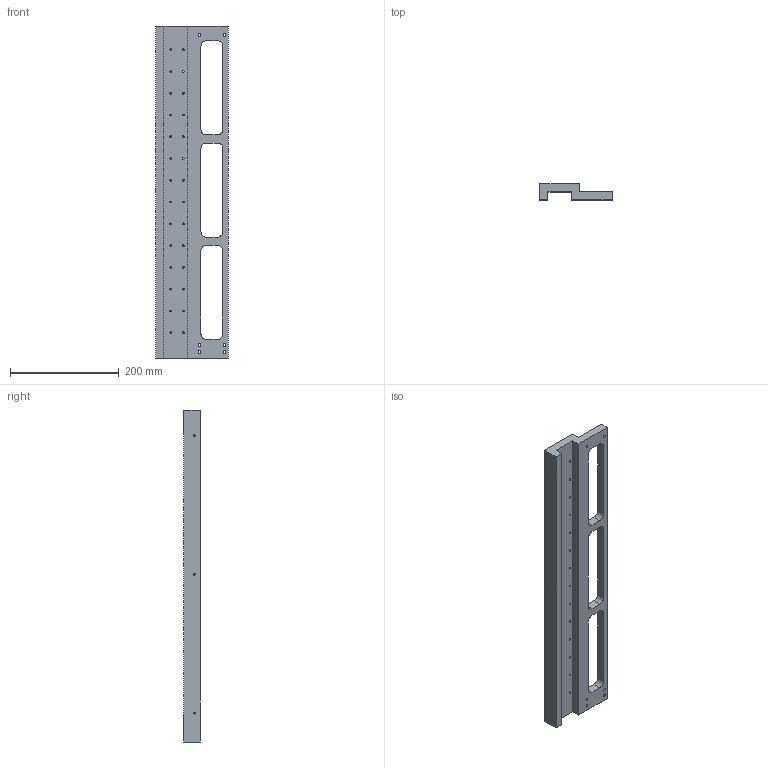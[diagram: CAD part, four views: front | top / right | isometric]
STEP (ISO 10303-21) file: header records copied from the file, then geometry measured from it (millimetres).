
FILE_DESCRIPTION(('STEP AP203'), '1');
FILE_NAME('ÊÀÐØÊ03.00.00.05 - Êîëîííà âàðèàíò 3', '', ('UNSPECIFIED'), ('UNSPECIFIED'), 'C3D Converter', 'C3D Toolkit', '');
FILE_SCHEMA(('CONFIG_CONTROL_DESIGN'));
Length unit declared in the file: millimetre
Products named in the file (1): КАРШК03.00.00.05
Bounding box: 133 x 30 x 610 mm (x, y, z)
Volume: 1172136.7 mm3; surface area: 208521.3 mm2
Topology: 1 solids, 1 shells, 87 faces, 468 edges, 427 vertices
Faces by surface type: cylinder 56, plane 24, cone 7
Full cylindrical faces by diameter (mm): 3.242 x31, 4.917 x6, 6.647 x7
Entity records: 26963 total; most frequent: CARTESIAN_POINT 22786, DIRECTION 830, ORIENTED_EDGE 380, AXIS2_PLACEMENT_3D 376, CIRCLE 288, COLOUR_RGB 221, PRESENTATION_STYLE_ASSIGNMENT 221, STYLED_ITEM 221
